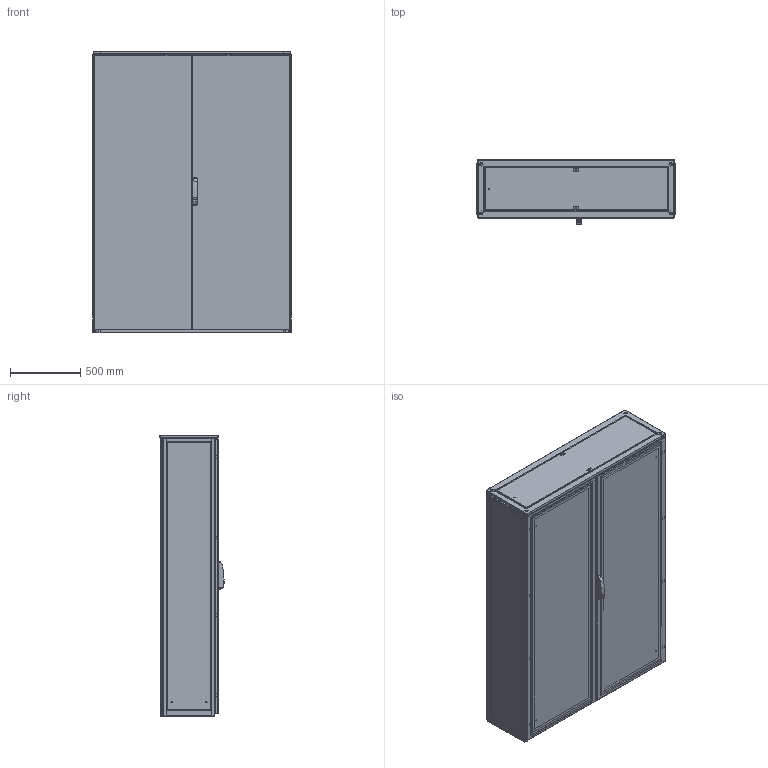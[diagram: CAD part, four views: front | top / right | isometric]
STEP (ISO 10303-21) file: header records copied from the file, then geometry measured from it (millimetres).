
FILE_DESCRIPTION(/* description */ ('STEP AP214'),/* implementation_level */ '2;1');
FILE_NAME(/* name */ 'ENUX142004PR -LOD350',/* time_stamp */ '2025-10-06T10:02:58+02:00',/* author */ ('License CC BY-ND 4.0'),/* organization */ ('CADENAS'),/* preprocessor_version */ 'ST-DEVELOPER v19.3',/* originating_system */ 'PARTsolutions',/* authorisation */ ' ');
FILE_SCHEMA (('AUTOMOTIVE_DESIGN {1 0 10303 214 3 1 1}'));
Length unit declared in the file: millimetre
Products named in the file (11): ENUX142004PR  -LOD350; ENUX142004PR  -LOD3501; ENUX142004PR  -LOD3507; ENUX142004PR  -LOD3502; ENUX142004PR  -LOD35011; ENUX142004PR  -LOD3503; ENUX142004PR  -LOD3508; ENUX142004PR  -LOD3505; ENUX142004PR  -LOD3504; ENUX142004PR  -LOD35010; ENUX142004PR  -LOD3509
Assembly tree (15 placements, depth 2):
  ENUX142004PR  -LOD350
    ENUX142004PR  -LOD3501
    ENUX142004PR  -LOD3507  x2
    ENUX142004PR  -LOD3502
    ENUX142004PR  -LOD35011
    ENUX142004PR  -LOD3503
    ENUX142004PR  -LOD3508
    ENUX142004PR  -LOD3505
    ENUX142004PR  -LOD3504
    ENUX142004PR  -LOD35010  x4
    ENUX142004PR  -LOD3509  x2
Bounding box: 1412 x 457 x 2008.5 mm (x, y, z)
Volume: 29640837.2 mm3; surface area: 24490815.3 mm2
Topology: 15 solids, 22 shells, 1428 faces, 3829 edges, 2500 vertices
Faces by surface type: plane 850, cylinder 528, torus 30, cone 12, sphere 8
Full cylindrical faces by diameter (mm): 6 x15, 9 x13, 12 x4, 14 x2, 17 x2, 28 x2
Entity records: 36566 total; most frequent: CARTESIAN_POINT 6693, DIRECTION 6207, ORIENTED_EDGE 6118, EDGE_CURVE 3059, LINE 2069, VECTOR 2069, AXIS2_PLACEMENT_3D 2069, VERTEX_POINT 2022
